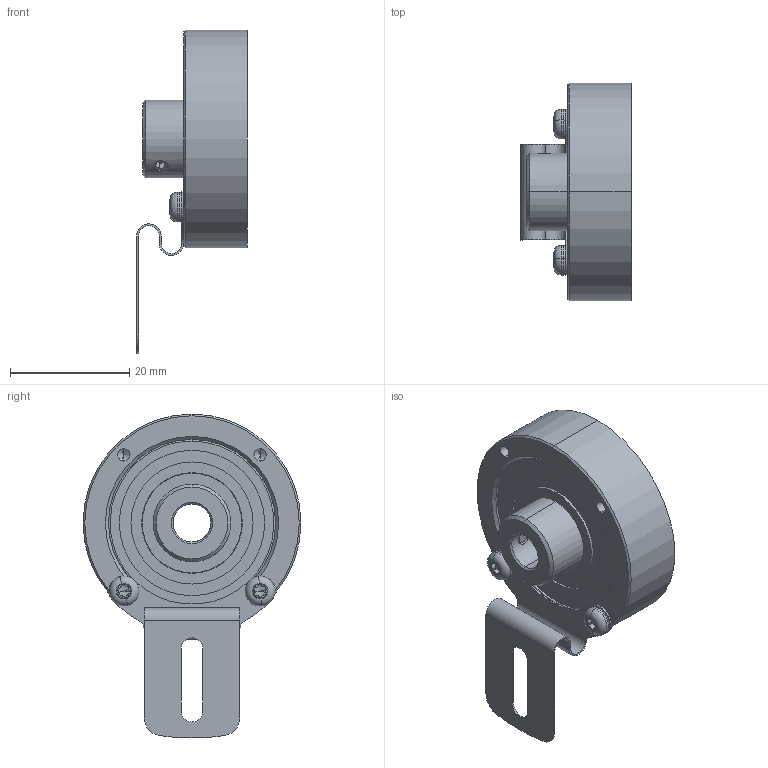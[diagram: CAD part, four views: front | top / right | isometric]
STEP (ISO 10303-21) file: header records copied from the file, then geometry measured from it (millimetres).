
FILE_DESCRIPTION (( 'STEP AP214' ), '1' );
FILE_NAME ('drawing-ucd-ara0-q3a-n.STEP', '2017-01-12T10:14:45', ( '' ), ( '' ), 'SwSTEP 2.0', 'SolidWorks 2015', '' );
FILE_SCHEMA (( 'AUTOMOTIVE_DESIGN' ));
Length unit declared in the file: millimetre
Products named in the file (1): drawing-ucd-ara0-q3a-n
Bounding box: 18.5 x 36.5 x 54.25 mm (x, y, z)
Volume: 9457.5 mm3; surface area: 12166.9 mm2
Topology: 20 solids, 20 shells, 374 faces, 918 edges, 559 vertices
Faces by surface type: cylinder 127, plane 91, cone 74, bspline 62, torus 20
Entity records: 13462 total; most frequent: CARTESIAN_POINT 4638, DIRECTION 1815, ORIENTED_EDGE 1752, EDGE_CURVE 876, AXIS2_PLACEMENT_3D 780, VERTEX_POINT 559, CIRCLE 467, EDGE_LOOP 431
